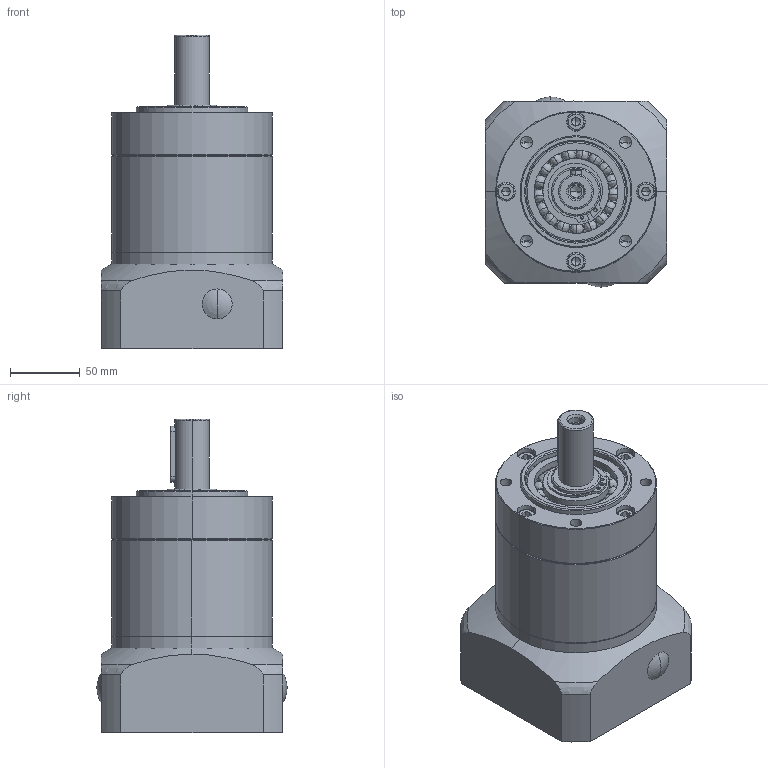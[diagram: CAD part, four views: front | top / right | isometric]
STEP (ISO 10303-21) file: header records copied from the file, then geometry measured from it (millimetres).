
FILE_DESCRIPTION (( 'STEP AP214' ), '1' );
FILE_NAME ('PL120L2-110-24-M8-145.STEP', '2020-09-12T09:16:06', ( '微软用户' ), ( '微软中国' ), 'SwSTEP 2.0', 'SolidWorks 2014', '' );
FILE_SCHEMA (( 'AUTOMOTIVE_DESIGN' ));
Length unit declared in the file: millimetre
Products named in the file (90): 俴陎謫35; す瑩怀堤粣5; 俴陎謫31-5; Parallel pins Unhardening Steel GB_GB_CONNECTING_PIECE_PIN_PPUS 6X14; 黑裔15; 夹头输入轴24; Hexagon socket head cap screws GB_GB_FSTENER_SCREWS_HSHCS M6X20-N; 怀堤傷裔; Spring lock washers--Normal type GB_GB_FASTENER_WASHER_SW 8; Hexagon socket head cap screws GB_GB_FASTENER_SCREWS_HSHCS M8X50-N; Hexagon socket head cap screws GB_GB_FASTENER_SCREWS_HSHCS M8X40-N; 俴陎粣13.513X26; 130输入端盖; Plain parallel keys_GB_CONNECTING_PIECE_KEYS_CSK 8X40; PL120L2-110-24-M8-145; 謗撰囀喘謫84; O形圈2.5X72; Circlips for holes--Type A GB_GB_CONNECTING_PIECE_RING_RRH 72; Deep groove ball bearings GB_Rolling bearings 6207 GB 276-94; 怮栠謫12; 路燭菜え25X82.5; 幗渀粣創13.513X18.513; 俴陎殤8; 怮栠謫21-5; 苤菜え27X13.6; Circlips for shaft--Type B GB_GB_CONNECTING_PIECE_RINGS_CSB 35
Assembly tree (64 placements, depth 2):
  夹头输入轴24
  怀堤傷裔
  PL120L2-110-24-M8-145
    謗撰囀喘謫84
    O形圈2.5X72
    Circlips for holes--Type A GB_GB_CONNECTING_PIECE_RING_RRH 72  x2
    Deep groove ball bearings GB_Rolling bearings 6207 GB 276-94  x3
    夹头输入轴24
    Circlips for shaft--Type B GB_GB_CONNECTING_PIECE_RINGS_CSB 35  x2
    怮栠謫12
    路燭菜え25X82.5  x2
    俴陎殤8
    怮栠謫21-5
    幗渀粣創13.513X18.513  x6
    苤菜え27X13.6  x6
    俴陎粣13.513X26  x6
    俴陎謫35  x3
    す瑩怀堤粣5
    俴陎謫31-5  x3
    Parallel pins Unhardening Steel GB_GB_CONNECTING_PIECE_PIN_PPUS 6X14
    黑裔15  x2
    Hexagon socket head cap screws GB_GB_FSTENER_SCREWS_HSHCS M6X20-N  x2
    Spring lock washers--Normal type GB_GB_FASTENER_WASHER_SW 8  x8
    Hexagon socket head cap screws GB_GB_FASTENER_SCREWS_HSHCS M8X50-N  x4
    Hexagon socket head cap screws GB_GB_FASTENER_SCREWS_HSHCS M8X40-N  x4
    130输入端盖
    Plain parallel keys_GB_CONNECTING_PIECE_KEYS_CSK 8X40
    怀堤傷裔
  謗撰囀喘謫84
  O形圈2.5X72
Bounding box: 130 x 136 x 224 mm (x, y, z)
Volume: 1641962.8 mm3; surface area: 412395.4 mm2
Topology: 64 solids, 64 shells, 1496 faces, 4259 edges, 2614 vertices
Faces by surface type: cylinder 543, plane 397, bspline 340, cone 206, torus 10
Entity records: 30562 total; most frequent: CARTESIAN_POINT 9077, DIRECTION 4165, ORIENTED_EDGE 4040, EDGE_CURVE 2020, AXIS2_PLACEMENT_3D 1743, VERTEX_POINT 1318, CIRCLE 1004, EDGE_LOOP 932
